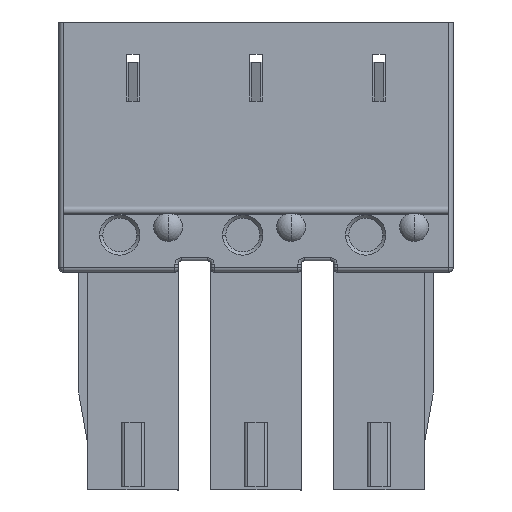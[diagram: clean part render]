
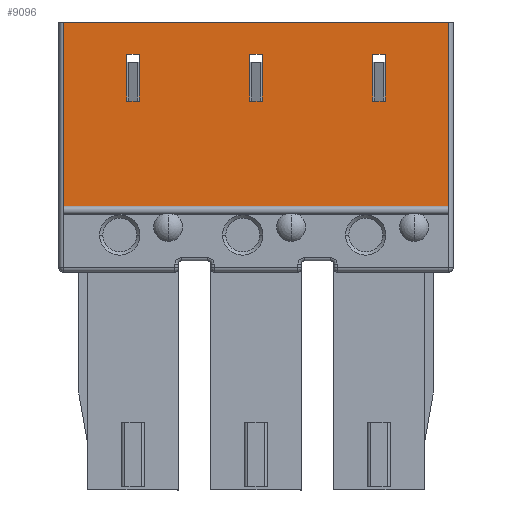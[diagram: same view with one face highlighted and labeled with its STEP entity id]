
A CAD part, front view. The second image highlights one B-rep face of the part: STEP entity #9096.
In plain terms, the highlighted planar face has unit normal (0, -1, 0).
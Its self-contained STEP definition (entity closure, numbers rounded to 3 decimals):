
#1=DIRECTION('',(-1.,0.,0.));
#2=VECTOR('',#1,11.92);
#3=CARTESIAN_POINT('',(26.078,0.25,-3.4));
#4=LINE('',#3,#2);
#153=DIRECTION('',(1.,0.,0.));
#154=VECTOR('',#153,11.92);
#155=CARTESIAN_POINT('',(14.158,0.25,-9.105));
#156=LINE('',#155,#154);
#461=DIRECTION('',(0.,0.,1.));
#462=VECTOR('',#461,5.705);
#463=CARTESIAN_POINT('',(26.078,0.25,-9.105));
#464=LINE('',#463,#462);
#888=DIRECTION('',(-1.,0.,0.));
#889=VECTOR('',#888,0.4);
#890=CARTESIAN_POINT('',(16.508,0.25,-5.85));
#891=LINE('',#890,#889);
#2155=DIRECTION('',(0.,0.,-1.));
#2156=VECTOR('',#2155,1.45);
#2157=CARTESIAN_POINT('',(16.508,0.25,-4.4));
#2158=LINE('',#2157,#2156);
#2291=DIRECTION('',(0.,0.,1.));
#2292=VECTOR('',#2291,1.45);
#2293=CARTESIAN_POINT('',(16.108,0.25,-5.85));
#2294=LINE('',#2293,#2292);
#2307=DIRECTION('',(1.,0.,0.));
#2308=VECTOR('',#2307,0.4);
#2309=CARTESIAN_POINT('',(16.108,0.25,-4.4));
#2310=LINE('',#2309,#2308);
#2521=DIRECTION('',(-1.,0.,0.));
#2522=VECTOR('',#2521,0.4);
#2523=CARTESIAN_POINT('',(24.128,0.25,-5.85));
#2524=LINE('',#2523,#2522);
#3788=DIRECTION('',(0.,0.,-1.));
#3789=VECTOR('',#3788,1.45);
#3790=CARTESIAN_POINT('',(24.128,0.25,-4.4));
#3791=LINE('',#3790,#3789);
#3908=DIRECTION('',(0.,0.,1.));
#3909=VECTOR('',#3908,1.45);
#3910=CARTESIAN_POINT('',(23.728,0.25,-5.85));
#3911=LINE('',#3910,#3909);
#3924=DIRECTION('',(1.,0.,0.));
#3925=VECTOR('',#3924,0.4);
#3926=CARTESIAN_POINT('',(23.728,0.25,-4.4));
#3927=LINE('',#3926,#3925);
#4154=DIRECTION('',(-1.,0.,0.));
#4155=VECTOR('',#4154,0.4);
#4156=CARTESIAN_POINT('',(20.318,0.25,-5.85));
#4157=LINE('',#4156,#4155);
#5421=DIRECTION('',(0.,0.,-1.));
#5422=VECTOR('',#5421,1.45);
#5423=CARTESIAN_POINT('',(20.318,0.25,-4.4));
#5424=LINE('',#5423,#5422);
#5565=DIRECTION('',(0.,0.,1.));
#5566=VECTOR('',#5565,1.45);
#5567=CARTESIAN_POINT('',(19.918,0.25,-5.85));
#5568=LINE('',#5567,#5566);
#5581=DIRECTION('',(1.,0.,0.));
#5582=VECTOR('',#5581,0.4);
#5583=CARTESIAN_POINT('',(19.918,0.25,-4.4));
#5584=LINE('',#5583,#5582);
#5905=DIRECTION('',(0.,0.,-1.));
#5906=VECTOR('',#5905,5.705);
#5907=CARTESIAN_POINT('',(14.158,0.25,-3.4));
#5908=LINE('',#5907,#5906);
#7292=CARTESIAN_POINT('',(26.078,0.25,-3.4));
#7293=CARTESIAN_POINT('',(14.158,0.25,-3.4));
#7294=VERTEX_POINT('',#7292);
#7295=VERTEX_POINT('',#7293);
#7404=CARTESIAN_POINT('',(14.158,0.25,-9.105));
#7405=CARTESIAN_POINT('',(26.078,0.25,-9.105));
#7406=VERTEX_POINT('',#7404);
#7407=VERTEX_POINT('',#7405);
#7408=CARTESIAN_POINT('',(16.508,0.25,-4.4));
#7409=CARTESIAN_POINT('',(16.508,0.25,-5.85));
#7410=VERTEX_POINT('',#7408);
#7411=VERTEX_POINT('',#7409);
#7412=CARTESIAN_POINT('',(16.108,0.25,-4.4));
#7413=VERTEX_POINT('',#7412);
#7414=CARTESIAN_POINT('',(16.108,0.25,-5.85));
#7415=VERTEX_POINT('',#7414);
#7416=CARTESIAN_POINT('',(20.318,0.25,-4.4));
#7417=CARTESIAN_POINT('',(20.318,0.25,-5.85));
#7418=VERTEX_POINT('',#7416);
#7419=VERTEX_POINT('',#7417);
#7420=CARTESIAN_POINT('',(19.918,0.25,-4.4));
#7421=VERTEX_POINT('',#7420);
#7422=CARTESIAN_POINT('',(19.918,0.25,-5.85));
#7423=VERTEX_POINT('',#7422);
#7424=CARTESIAN_POINT('',(24.128,0.25,-4.4));
#7425=CARTESIAN_POINT('',(24.128,0.25,-5.85));
#7426=VERTEX_POINT('',#7424);
#7427=VERTEX_POINT('',#7425);
#7428=CARTESIAN_POINT('',(23.728,0.25,-4.4));
#7429=VERTEX_POINT('',#7428);
#7430=CARTESIAN_POINT('',(23.728,0.25,-5.85));
#7431=VERTEX_POINT('',#7430);
#9052=CARTESIAN_POINT('',(31.078,0.25,-3.4));
#9053=DIRECTION('',(0.,-1.,0.));
#9054=DIRECTION('',(0.,0.,-1.));
#9055=AXIS2_PLACEMENT_3D('',#9052,#9053,#9054);
#9056=PLANE('',#9055);
#9058=ORIENTED_EDGE('',*,*,#9057,.F.);
#9060=ORIENTED_EDGE('',*,*,#9059,.F.);
#9061=ORIENTED_EDGE('',*,*,#8937,.F.);
#9063=ORIENTED_EDGE('',*,*,#9062,.F.);
#9064=EDGE_LOOP('',(#9058,#9060,#9061,#9063));
#9065=FACE_OUTER_BOUND('',#9064,.F.);
#9067=ORIENTED_EDGE('',*,*,#9066,.F.);
#9069=ORIENTED_EDGE('',*,*,#9068,.F.);
#9071=ORIENTED_EDGE('',*,*,#9070,.F.);
#9073=ORIENTED_EDGE('',*,*,#9072,.F.);
#9074=EDGE_LOOP('',(#9067,#9069,#9071,#9073));
#9075=FACE_BOUND('',#9074,.F.);
#9077=ORIENTED_EDGE('',*,*,#9076,.F.);
#9079=ORIENTED_EDGE('',*,*,#9078,.F.);
#9081=ORIENTED_EDGE('',*,*,#9080,.F.);
#9083=ORIENTED_EDGE('',*,*,#9082,.F.);
#9084=EDGE_LOOP('',(#9077,#9079,#9081,#9083));
#9085=FACE_BOUND('',#9084,.F.);
#9087=ORIENTED_EDGE('',*,*,#9086,.F.);
#9089=ORIENTED_EDGE('',*,*,#9088,.F.);
#9091=ORIENTED_EDGE('',*,*,#9090,.F.);
#9093=ORIENTED_EDGE('',*,*,#9092,.F.);
#9094=EDGE_LOOP('',(#9087,#9089,#9091,#9093));
#9095=FACE_BOUND('',#9094,.F.);
#9096=ADVANCED_FACE('',(#9065,#9075,#9085,#9095),#9056,.T.);
#8937=EDGE_CURVE('',#7294,#7295,#4,.T.);
#9057=EDGE_CURVE('',#7406,#7407,#156,.T.);
#9059=EDGE_CURVE('',#7295,#7406,#5908,.T.);
#9062=EDGE_CURVE('',#7407,#7294,#464,.T.);
#9066=EDGE_CURVE('',#7410,#7411,#2158,.T.);
#9068=EDGE_CURVE('',#7413,#7410,#2310,.T.);
#9070=EDGE_CURVE('',#7415,#7413,#2294,.T.);
#9072=EDGE_CURVE('',#7411,#7415,#891,.T.);
#9076=EDGE_CURVE('',#7418,#7419,#5424,.T.);
#9078=EDGE_CURVE('',#7421,#7418,#5584,.T.);
#9080=EDGE_CURVE('',#7423,#7421,#5568,.T.);
#9082=EDGE_CURVE('',#7419,#7423,#4157,.T.);
#9086=EDGE_CURVE('',#7426,#7427,#3791,.T.);
#9088=EDGE_CURVE('',#7429,#7426,#3927,.T.);
#9090=EDGE_CURVE('',#7431,#7429,#3911,.T.);
#9092=EDGE_CURVE('',#7427,#7431,#2524,.T.);
